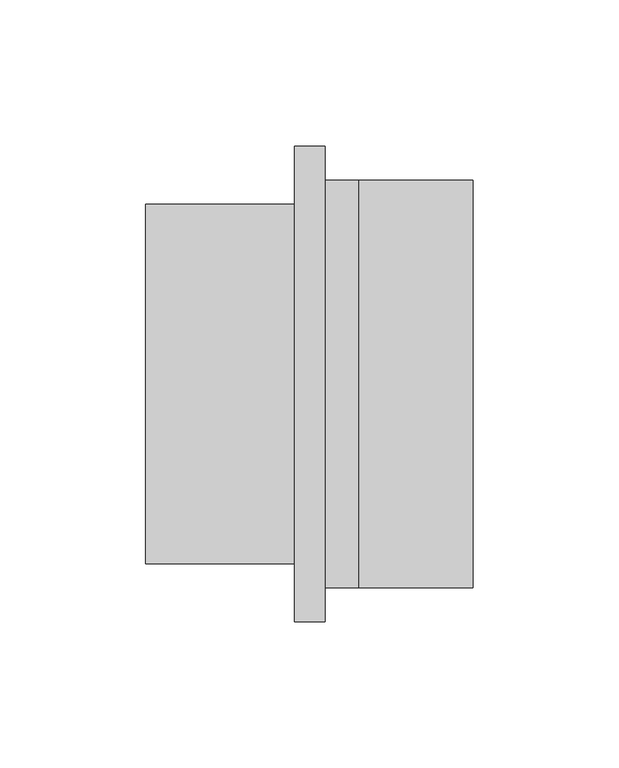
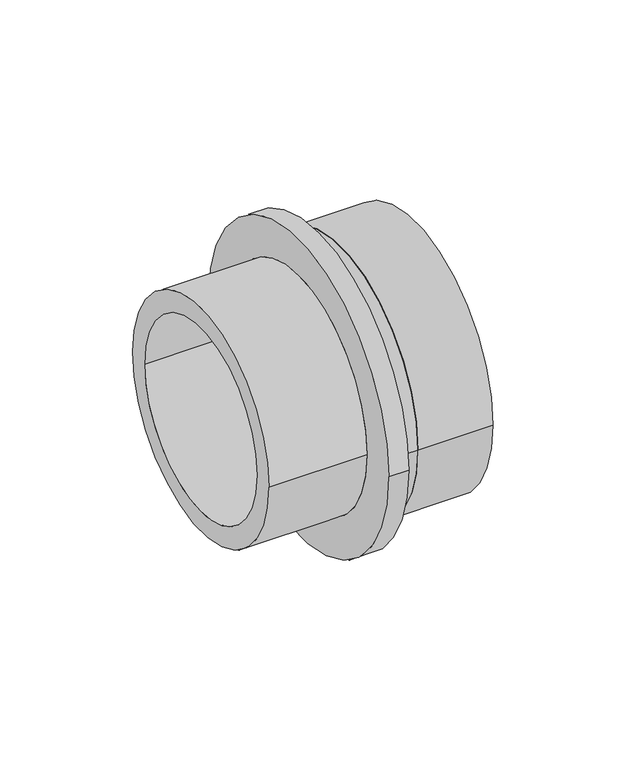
"""IFC4 building model written with IfcOpenShell, lengths in millimetres: pipe fitting geometry, Adapter with welding end : A welding RX."""

import ifcopenshell
import ifcopenshell.guid

model = None  # the IFC model being written
_history = None  # IfcOwnerHistory: only IFC2X3 demands one
_inside = {}  # id of a spatial element -> (the spatial element, [elements in it])
_under = {}  # id of a project, library or spatial element -> (it, [spatial elements below it])
_declared = {}  # id of a project -> (the project, [libraries it declares])
_typed = {}  # id of a type object -> (the type object, [elements of that type])
_made_of = {}  # id of a material, layer set ... -> (it, [elements and type objects made of it])


def new_model(schema):
    """Start an empty IFC model of exactly this schema.

    Asked for "IFC4X3", IfcOpenShell would pick the latest addendum, in which some entities
    have other attributes; the version numbers below select the first issue.
    IFC2X3 requires an IfcOwnerHistory on every rooted entity: one is made here for all.
    """
    global model, _history
    if schema == "IFC4X3":
        model = ifcopenshell.file(schema_version=(4, 3, 0, 0))
    else:
        model = ifcopenshell.file(schema=schema)
    _inside.clear()
    _under.clear()
    _declared.clear()
    _typed.clear()
    _made_of.clear()
    _history = None
    if model.schema == "IFC2X3":
        org = make("IfcOrganization", Name="unknown")
        user = make(
            "IfcPersonAndOrganization",
            ThePerson=make("IfcPerson", FamilyName="unknown"),
            TheOrganization=org,
        )
        app = make(
            "IfcApplication",
            ApplicationDeveloper=org,
            Version="unknown",
            ApplicationFullName="unknown",
            ApplicationIdentifier="unknown",
        )
        _history = make(
            "IfcOwnerHistory",
            OwningUser=user,
            OwningApplication=app,
            ChangeAction="ADDED",
            CreationDate=0,
        )
    return model


def make(cls, **values):
    """One entity of the class cls with the attributes given. An attribute that is None is left unset."""
    return model.create_entity(
        cls, **{name: value for name, value in values.items() if value is not None}
    )


def rooted(cls, **values):
    """An entity with a GlobalId (a new one), such as an element, a storey or a relation."""
    return make(cls, GlobalId=ifcopenshell.guid.new(), OwnerHistory=_history, **values)


def si_unit(unit_type, name, prefix=None):
    """IfcSIUnit, for example si_unit("LENGTHUNIT", "METRE", prefix="MILLI")."""
    return make("IfcSIUnit", UnitType=unit_type, Prefix=prefix, Name=name)


def assignment(units):
    """IfcUnitAssignment: the units of a project."""
    return None if units is None else make("IfcUnitAssignment", Units=units)


def point(xyz):
    """IfcCartesianPoint."""
    return None if xyz is None else make("IfcCartesianPoint", Coordinates=xyz)


def direction(xyz):
    """IfcDirection."""
    return None if xyz is None else make("IfcDirection", DirectionRatios=xyz)


def frame(location, z_axis=None, x_axis=None):
    """IfcAxis2Placement3D, a coordinate frame: its origin and axes. An axis left out is left unset."""
    return make(
        "IfcAxis2Placement3D",
        Location=point(location),
        Axis=direction(z_axis),
        RefDirection=direction(x_axis),
    )


def frame_2d(location, x_axis=None):
    """IfcAxis2Placement2D, a coordinate frame in the plane: its origin and x axis."""
    return make(
        "IfcAxis2Placement2D", Location=point(location), RefDirection=direction(x_axis)
    )


def origin():
    """The frame at (0, 0, 0) with its axes left unset."""
    return frame((0.0, 0.0, 0.0))


def origin_2d():
    """The frame at (0, 0) in the plane with its x axis left unset."""
    return frame_2d((0.0, 0.0))


def place(relative_to, where):
    """IfcLocalPlacement: puts the frame where relative to a parent placement (None: the world)."""
    return make(
        "IfcLocalPlacement", PlacementRelTo=relative_to, RelativePlacement=where
    )


def context(
    kind, dimensions, precision=None, world=None, true_north=None, identifier=None
):
    """IfcGeometricRepresentationContext, for example the 3D "Model" context."""
    return make(
        "IfcGeometricRepresentationContext",
        ContextIdentifier=identifier,
        ContextType=kind,
        CoordinateSpaceDimension=dimensions,
        Precision=precision,
        WorldCoordinateSystem=world,
        TrueNorth=true_north,
    )


def project(units=None, contexts=None):
    """IfcProject with its units and contexts."""
    return rooted(
        "IfcProject",
        Name="project",
        RepresentationContexts=contexts,
        UnitsInContext=assignment(units),
    )


def spatial(cls, under=None, at=None, **own):
    """A site, building, storey or space (cls), placed at a placement, below another one or the project."""
    s = rooted(cls, ObjectPlacement=at, **own)
    if under is not None:
        _under.setdefault(under.id(), (under, []))[1].append(s)
    return s


def polyline(points):
    """IfcPolyline through the points."""
    return make("IfcPolyline", Points=[point(p) for p in points])


def circle_curve(where, radius):
    """IfcCircle in the frame where."""
    return make("IfcCircle", Position=where, Radius=radius)


def trimmed(basis, trim1, trim2, sense, master):
    """IfcTrimmedCurve: the piece of a basis curve between two trims."""
    return make(
        "IfcTrimmedCurve",
        BasisCurve=basis,
        Trim1=trim1,
        Trim2=trim2,
        SenseAgreement=sense,
        MasterRepresentation=master,
    )


def segment(curve, same_sense, transition):
    """IfcCompositeCurveSegment."""
    return make(
        "IfcCompositeCurveSegment",
        Transition=transition,
        SameSense=same_sense,
        ParentCurve=curve,
    )


def composite_curve(segments, self_intersect=None):
    """IfcCompositeCurve: segments joined end to end."""
    return make("IfcCompositeCurve", Segments=segments, SelfIntersect=self_intersect)


def outline(outer, holes=None, kind="AREA"):
    """IfcArbitraryClosedProfileDef: a profile drawn as a closed curve; with holes, ...WithVoids."""
    if holes is None:
        return make("IfcArbitraryClosedProfileDef", ProfileType=kind, OuterCurve=outer)
    return make(
        "IfcArbitraryProfileDefWithVoids",
        ProfileType=kind,
        OuterCurve=outer,
        InnerCurves=holes,
    )


def extrude(swept, where, along, depth):
    """IfcExtrudedAreaSolid: the profile swept, set in the frame where, extruded along a direction by depth."""
    return make(
        "IfcExtrudedAreaSolid",
        SweptArea=swept,
        Position=where,
        ExtrudedDirection=direction(along),
        Depth=depth,
    )


def shape(context_of_items, identifier, shape_type, items):
    """IfcShapeRepresentation: the items that make up one representation, for example the "Body"."""
    return make(
        "IfcShapeRepresentation",
        ContextOfItems=context_of_items,
        RepresentationIdentifier=identifier,
        RepresentationType=shape_type,
        Items=items,
    )


def source(mapping_origin, context_of_items, identifier, shape_type, items):
    """IfcRepresentationMap: a shape defined once, which mapped items show again and again."""
    return make(
        "IfcRepresentationMap",
        MappingOrigin=mapping_origin,
        MappedRepresentation=shape(context_of_items, identifier, shape_type, items),
    )


def transform(
    local_origin,
    x_axis=None,
    y_axis=None,
    z_axis=None,
    scale=None,
    scale2=None,
    scale3=None,
    uniform=True,
):
    """IfcCartesianTransformationOperator3D, or its non-uniform kind. x_axis, y_axis, z_axis: its Axis1, 2, 3."""
    if uniform:
        return make(
            "IfcCartesianTransformationOperator3D",
            Axis1=direction(x_axis),
            Axis2=direction(y_axis),
            LocalOrigin=point(local_origin),
            Scale=scale,
            Axis3=direction(z_axis),
        )
    return make(
        "IfcCartesianTransformationOperator3DnonUniform",
        Axis1=direction(x_axis),
        Axis2=direction(y_axis),
        LocalOrigin=point(local_origin),
        Scale=scale,
        Axis3=direction(z_axis),
        Scale2=scale2,
        Scale3=scale3,
    )


def mapped(mapping_source, mapping_target):
    """IfcMappedItem: shows the shape of a source again, moved by a transform."""
    return make(
        "IfcMappedItem", MappingSource=mapping_source, MappingTarget=mapping_target
    )


def made_of(thing, what):
    """Note that an element or type object is made of a material, layer set ...; save() writes the relation."""
    if what is not None:
        _made_of.setdefault(what.id(), (what, []))[1].append(thing)
    return thing


def element(
    cls,
    number,
    at=None,
    inside=None,
    cuts=None,
    type_object=None,
    material=None,
    context=None,
    identifier="Body",
    shape_type=None,
    held_by="IfcProductDefinitionShape",
    body=None,
    shapes=None,
    **own,
):
    """One element of the class cls, such as IfcWall. Its Tag is "e" and its number.

    at: its placement. inside: the storey or other place that contains it. cuts: it is an
    opening in that element (IfcRelVoidsElement). A single representation is given by context,
    identifier, shape_type and body (its items); several are given by shapes. held_by: the class
    of the entity that holds the representations. save() writes the other relations.
    """
    e = rooted(cls, Tag="e%d" % number, ObjectPlacement=at, **own)
    if body is not None:
        shapes = [shape(context, identifier, shape_type, body)]
    if shapes is not None:
        e.Representation = make(held_by, Representations=shapes)
    if inside is not None:
        _inside.setdefault(inside.id(), (inside, []))[1].append(e)
    if cuts is not None:
        rooted(
            "IfcRelVoidsElement", RelatingBuildingElement=cuts, RelatedOpeningElement=e
        )
    if type_object is not None:
        _typed.setdefault(type_object.id(), (type_object, []))[1].append(e)
    return made_of(e, material)


def aggregate(whole, parts):
    """IfcRelAggregates: a whole, such as a stair, and the parts it consists of."""
    return rooted("IfcRelAggregates", RelatingObject=whole, RelatedObjects=parts)


def save(model, path):
    """Write the relations noted so far, then the file.

    IfcRelAggregates (storeys below a building ...), IfcRelContainedInSpatialStructure (elements
    in a storey), IfcRelDefinesByType, IfcRelAssociatesMaterial and IfcRelDeclares: one each for
    every whole, place, type object, material and project.
    """
    for whole, parts in _under.values():
        aggregate(whole, parts)
    for where, things in _inside.values():
        rooted(
            "IfcRelContainedInSpatialStructure",
            RelatedElements=things,
            RelatingStructure=where,
        )
    for kind, things in _typed.values():
        rooted("IfcRelDefinesByType", RelatedObjects=things, RelatingType=kind)
    for what, things in _made_of.values():
        rooted("IfcRelAssociatesMaterial", RelatedObjects=things, RelatingMaterial=what)
    for by, libraries in _declared.values():
        rooted("IfcRelDeclares", RelatingContext=by, RelatedDefinitions=libraries)
    model.write(path)


def plane_surface(at):
    """IfcPlane: the flat surface through the origin of the frame at, square to its z axis."""
    return make("IfcPlane", Position=at)


def cylinder_surface(at, radius):
    """IfcCylindricalSurface: all points at the distance radius from the z axis of the frame at."""
    return make("IfcCylindricalSurface", Position=at, Radius=radius)


def revolved_surface(curve, axis_point, axis_direction):
    """IfcSurfaceOfRevolution: the curve turned about the line through axis_point along axis_direction."""
    return make(
        "IfcSurfaceOfRevolution",
        SweptCurve=make("IfcArbitraryOpenProfileDef", ProfileType="CURVE", Curve=curve),
        AxisPosition=make("IfcAxis1Placement", Location=point(axis_point), Axis=direction(axis_direction)),
    )


def advanced_brep(points, edges, surfaces, faces):
    """IfcAdvancedBrep: a solid bounded by faces that lie on surfaces and meet in shared edges.

    An edge is (start, end): straight between two places in points (the first is 0);
    or (start, end, curve); or (start, end, curve, False) where it runs against its curve.
    A face is (place in surfaces, loops), or (place, loops, False) where it looks against
    its surface's normal. A loop lists edges by number (the first is 1), with a minus sign
    where the edge is run from its end to its start. The first loop is the outer one.
    """
    corners = [point(p) for p in points]
    vertices = [make("IfcVertexPoint", VertexGeometry=c) for c in corners]
    made = []
    for start, end, *more in edges:
        made.append(
            make(
                "IfcEdgeCurve",
                EdgeStart=vertices[start],
                EdgeEnd=vertices[end],
                EdgeGeometry=more[0] if more else make("IfcPolyline", Points=[corners[start], corners[end]]),
                SameSense=more[1] if len(more) > 1 else True,
            )
        )
    hull = []
    for where, loops, *sense in faces:
        bounds = []
        for j, loop in enumerate(loops):
            ring = [make("IfcOrientedEdge", EdgeElement=made[abs(k) - 1], Orientation=k > 0) for k in loop]
            bounds.append(
                make(
                    "IfcFaceOuterBound" if j == 0 else "IfcFaceBound",
                    Bound=make("IfcEdgeLoop", EdgeList=ring),
                    Orientation=True,
                )
            )
        hull.append(make("IfcAdvancedFace", Bounds=bounds, FaceSurface=surfaces[where], SameSense=sense[0] if sense else True))
    return make("IfcAdvancedBrep", Outer=make("IfcClosedShell", CfsFaces=hull))


def pipe_fitting_58d926c8(model_context):
    return source(origin(), model_context, "Body", "SolidModel", [
        extrude(outline(composite_curve([segment(trimmed(circle_curve(origin_2d(), 69.8), [point((-69.8, 0.0))], [point((69.8, 0.0))], False, "CARTESIAN"), True, "CONTINUOUS"), segment(trimmed(circle_curve(origin_2d(), 69.8), [point((69.8, 0.0))], [point((-69.8, 0.0))], False, "CARTESIAN"), True, "CONTINUOUS")], self_intersect=False), holes=[composite_curve([segment(trimmed(circle_curve(origin_2d(), 65.95), [point((65.95, 0.0))], [point((-65.95, 0.0))], True, "CARTESIAN"), True, "CONTINUOUS"), segment(trimmed(circle_curve(origin_2d(), 65.95), [point((-65.95, 0.0))], [point((65.95, 0.0))], True, "CARTESIAN"), True, "CONTINUOUS")], self_intersect=False)]), frame((0.0, 0.0, 0.0), z_axis=(1.0, 0.0, 0.0), x_axis=(0.0, 1.0, 0.0)), (0.0, 0.0, 1.0), 39.0),
        advanced_brep(
        [(0.0, 69.8, 0.0), (0.0, -69.8, 0.0), (-11.6, -69.8, 0.0), (-11.6, 69.8, 0.0), (-11.6, 65.95, 0.0), (-11.6, -65.95, 0.0), (0.0, -65.95, 0.0), (0.0, 65.95, 0.0), (-73.0, 50.5, 0.0), (-73.0, -50.5, 0.0), (-11.6, -50.5, 0.0), (-11.6, 50.5, 0.0), (-22.0, 61.5, 0.0), (-22.0, -61.5, 0.0), (-73.0, -61.5, 0.0), (-73.0, 61.5, 0.0), (-11.6, 81.5, 0.0), (-11.6, -81.5, 0.0), (-22.0, -81.5, 0.0), (-22.0, 81.5, 0.0)],
        [
            (0, 1, circle_curve(frame((0.0, 0.0, 0.0), z_axis=(-1.0, 0.0, 0.0), x_axis=(0.0, -1.0, 0.0)), 69.8)),
            (1, 2),
            (2, 3, circle_curve(frame((-11.6, 0.0, 0.0), z_axis=(1.0, 0.0, 0.0), x_axis=(0.0, -1.0, 0.0)), 69.8)),
            (3, 0),
            (4, 5, circle_curve(frame((-11.6, 0.0, 0.0), z_axis=(-1.0, 0.0, 0.0), x_axis=(0.0, -1.0, 0.0)), 65.95)),
            (5, 6),
            (6, 7, circle_curve(frame((0.0, 0.0, 0.0), z_axis=(1.0, 0.0, 0.0), x_axis=(0.0, -1.0, 0.0)), 65.95)),
            (7, 4),
            (8, 9, circle_curve(frame((-73.0, 0.0, 0.0), z_axis=(-1.0, 0.0, 0.0), x_axis=(0.0, -1.0, 0.0)), 50.5)),
            (9, 10),
            (10, 11, circle_curve(frame((-11.6, 0.0, 0.0), z_axis=(1.0, 0.0, 0.0), x_axis=(0.0, -1.0, 0.0)), 50.5)),
            (11, 8),
            (12, 13, circle_curve(frame((-22.0, 0.0, 0.0), z_axis=(-1.0, 0.0, 0.0), x_axis=(0.0, -1.0, 0.0)), 61.5)),
            (13, 14),
            (14, 15, circle_curve(frame((-73.0, 0.0, 0.0), z_axis=(1.0, 0.0, 0.0), x_axis=(0.0, -1.0, 0.0)), 61.5)),
            (15, 12),
            (16, 17, circle_curve(frame((-11.6, 0.0, 0.0), z_axis=(-1.0, 0.0, 0.0), x_axis=(0.0, -1.0, 0.0)), 81.5)),
            (17, 18),
            (18, 19, circle_curve(frame((-22.0, 0.0, 0.0), z_axis=(1.0, 0.0, 0.0), x_axis=(0.0, -1.0, 0.0)), 81.5)),
            (19, 16),
            (16, 17, circle_curve(frame((-11.6, 0.0, 0.0), z_axis=(1.0, 0.0, 0.0), x_axis=(0.0, 1.0, 0.0)), 81.5)),
            (2, 3, circle_curve(frame((-11.6, 0.0, 0.0), z_axis=(-1.0, 0.0, 0.0), x_axis=(0.0, 1.0, 0.0)), 69.8)),
            (1, 0, circle_curve(frame((0.0, 0.0, 0.0), z_axis=(-1.0, 0.0, 0.0), x_axis=(0.0, 1.0, 0.0)), 69.8)),
            (6, 7, circle_curve(frame((0.0, 0.0, 0.0), z_axis=(-1.0, 0.0, 0.0), x_axis=(0.0, 1.0, 0.0)), 65.95)),
            (5, 4, circle_curve(frame((-11.6, 0.0, 0.0), z_axis=(-1.0, 0.0, 0.0), x_axis=(0.0, 1.0, 0.0)), 65.95)),
            (10, 11, circle_curve(frame((-11.6, 0.0, 0.0), z_axis=(-1.0, 0.0, 0.0), x_axis=(0.0, 1.0, 0.0)), 50.5)),
            (9, 8, circle_curve(frame((-73.0, 0.0, 0.0), z_axis=(-1.0, 0.0, 0.0), x_axis=(0.0, 1.0, 0.0)), 50.5)),
            (14, 15, circle_curve(frame((-73.0, 0.0, 0.0), z_axis=(-1.0, 0.0, 0.0), x_axis=(0.0, 1.0, 0.0)), 61.5)),
            (13, 12, circle_curve(frame((-22.0, 0.0, 0.0), z_axis=(-1.0, 0.0, 0.0), x_axis=(0.0, 1.0, 0.0)), 61.5)),
            (18, 19, circle_curve(frame((-22.0, 0.0, 0.0), z_axis=(-1.0, 0.0, 0.0), x_axis=(0.0, 1.0, 0.0)), 81.5)),
        ],
        [
            cylinder_surface(frame((0.0, 0.0, 0.0), z_axis=(1.0, 0.0, 0.0), x_axis=(0.0, -1.0, 0.0)), 69.8),
            revolved_surface(polyline([(0.0, -65.95, 0.0), (-11.6, -65.95, 0.0)]), (0.0, 0.0, 0.0), (1.0, 0.0, 0.0)),
            revolved_surface(polyline([(-11.6, -50.5, 0.0), (-73.0, -50.5, 0.0)]), (0.0, 0.0, 0.0), (1.0, 0.0, 0.0)),
            cylinder_surface(frame((0.0, 0.0, 0.0), z_axis=(1.0, 0.0, 0.0), x_axis=(0.0, -1.0, 0.0)), 61.5),
            cylinder_surface(frame((0.0, 0.0, 0.0), z_axis=(1.0, 0.0, 0.0), x_axis=(0.0, -1.0, 0.0)), 81.5),
            plane_surface(frame((-11.6, 0.0, 0.0), z_axis=(1.0, 0.0, 0.0), x_axis=(0.0, 1.0, 0.0))),
            cylinder_surface(frame((0.0, 0.0, 0.0), z_axis=(1.0, 0.0, 0.0), x_axis=(0.0, 1.0, 0.0)), 69.8),
            plane_surface(frame((0.0, 0.0, 0.0), z_axis=(1.0, 0.0, 0.0), x_axis=(0.0, 1.0, 0.0))),
            revolved_surface(polyline([(0.0, 65.95, 0.0), (-11.6, 65.95, 0.0)]), (0.0, 0.0, 0.0), (1.0, 0.0, 0.0)),
            revolved_surface(polyline([(-11.6, 50.5, 0.0), (-73.0, 50.5, 0.0)]), (0.0, 0.0, 0.0), (1.0, 0.0, 0.0)),
            plane_surface(frame((-73.0, 0.0, 0.0), z_axis=(-1.0, 0.0, 0.0), x_axis=(0.0, 1.0, 0.0))),
            cylinder_surface(frame((0.0, 0.0, 0.0), z_axis=(1.0, 0.0, 0.0), x_axis=(0.0, 1.0, 0.0)), 61.5),
            plane_surface(frame((-22.0, 0.0, 0.0), z_axis=(-1.0, 0.0, 0.0), x_axis=(0.0, 1.0, 0.0))),
            cylinder_surface(frame((0.0, 0.0, 0.0), z_axis=(1.0, 0.0, 0.0), x_axis=(0.0, 1.0, 0.0)), 81.5),
        ],
        [
            (0, [[1, 2, 3, 4]]),
            (1, [[5, 6, 7, 8]]),
            (2, [[9, 10, 11, 12]]),
            (3, [[13, 14, 15, 16]]),
            (4, [[17, 18, 19, 20]]),
            (5, [[21, -17], [22, -3]]),
            (6, [[23, -4, -22, -2]]),
            (7, [[-23, -1], [24, -7]]),
            (8, [[25, -8, -24, -6]]),
            (5, [[-25, -5], [26, -11]]),
            (9, [[27, -12, -26, -10]]),
            (10, [[28, -15], [-27, -9]]),
            (11, [[29, -16, -28, -14]]),
            (12, [[30, -19], [-29, -13]]),
            (13, [[-21, -20, -30, -18]]),
        ],
    ),
    ])


if __name__ == "__main__":
    model = new_model("IFC4")
    model_context = context("Model", 3, world=origin())
    ifc_project = project(units=[si_unit("LENGTHUNIT", "METRE", prefix="MILLI")], contexts=[model_context])
    site = spatial("IfcSite", under=ifc_project)
    building = spatial("IfcBuilding", under=site)
    placement = place(None, origin())
    pipe_fitting_shape = pipe_fitting_58d926c8(model_context)
    element("IfcPipeFitting", 1, ObjectType="Adapter with welding end : A welding RX", at=placement, inside=building, context=model_context, shape_type="MappedRepresentation", body=[
        mapped(pipe_fitting_shape, transform((0.0, 0.0, 0.0), x_axis=(1.0, 0.0, 0.0), y_axis=(0.0, 1.0, 0.0), z_axis=(0.0, 0.0, 1.0))),
    ])
    save(model, "model.ifc")
